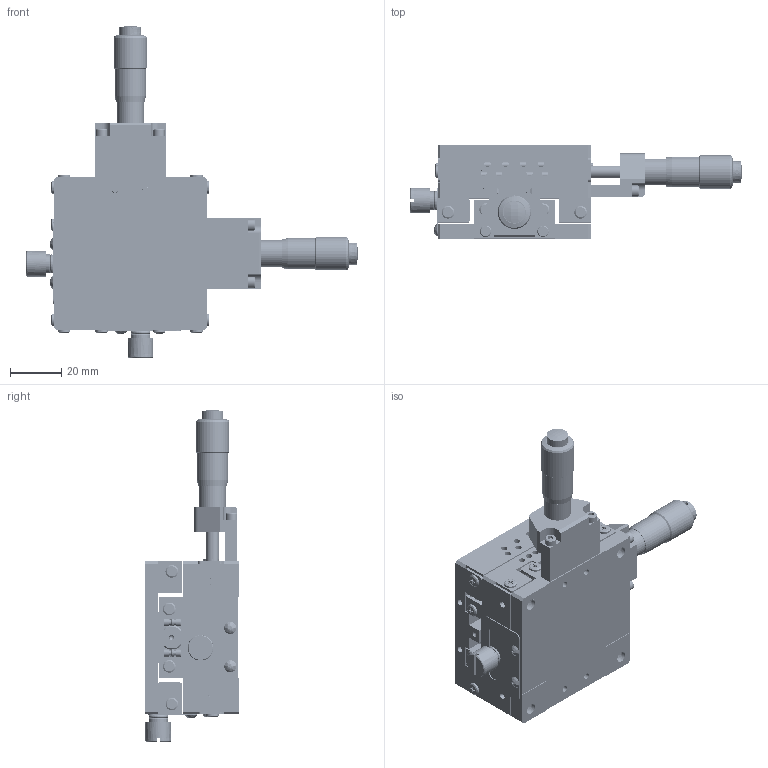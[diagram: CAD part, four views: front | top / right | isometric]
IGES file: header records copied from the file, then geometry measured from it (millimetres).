
Start section: SolidWorks IGES file using analytic representation for surfaces
Global section: file name: E:\0产品2d3d图纸-20180629\0-3种格式文件\产品图纸3d\08PBL\60\PBL-662CR.IGS; native system: SolidWorks 2015; preprocessor: SolidWorks 2015; author: Administrator; date: 180724.172448; units: millimetre
Bounding box: 130.14 x 37 x 130.14 mm (x, y, z)
Surface area: 82279.1 mm2 (no closed solid volume)
Topology: 0 solids, 0 shells, 2006 faces, 31482 edges, 31324 vertices
Faces by surface type: revolution 1076, bspline 930
